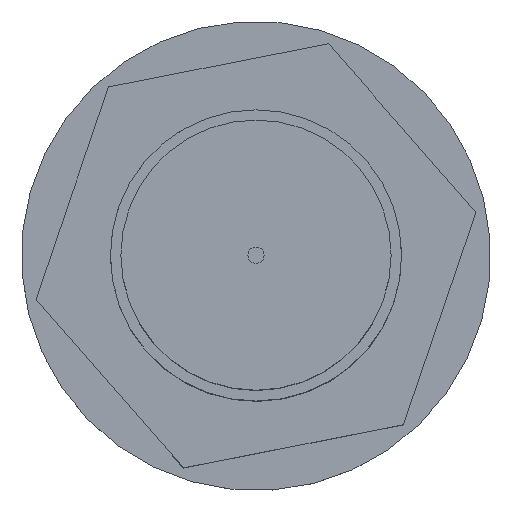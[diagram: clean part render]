
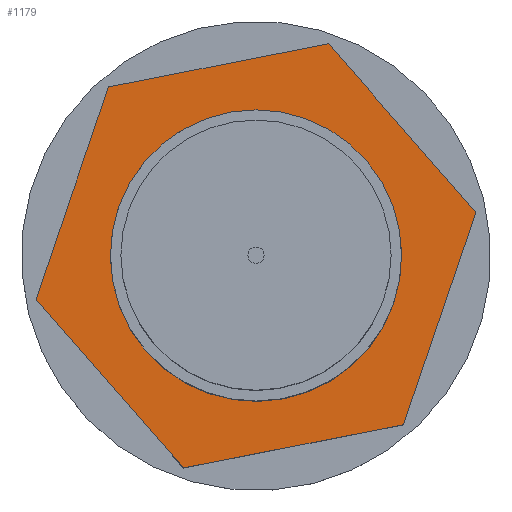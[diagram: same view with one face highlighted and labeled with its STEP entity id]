
A CAD part, top view. The second image highlights one B-rep face of the part: STEP entity #1179.
In plain terms, the highlighted planar face has unit normal (0, 0, 1) as drawn and (1, 0, 0) by its records, which use the part's own axes.
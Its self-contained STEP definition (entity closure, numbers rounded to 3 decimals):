
#40 = ORIENTED_EDGE ( 'NONE', *, *, #1164, .T. ) ;
#67 = CARTESIAN_POINT ( 'NONE',  ( 4., 0., 13.856 ) ) ;
#85 = VERTEX_POINT ( 'NONE', #1415 ) ;
#143 = CARTESIAN_POINT ( 'NONE',  ( 4., 0., 9. ) ) ;
#177 = DIRECTION ( 'NONE',  ( 0., 0., -1. ) ) ;
#185 = EDGE_CURVE ( 'NONE', #522, #1761, #367, .T. ) ;
#201 = EDGE_CURVE ( 'NONE', #85, #1780, #1199, .T. ) ;
#230 = AXIS2_PLACEMENT_3D ( 'NONE', #537, #358, #177 ) ;
#237 = DIRECTION ( 'NONE',  ( 0., 0.866, -0.5 ) ) ;
#290 = EDGE_CURVE ( 'NONE', #588, #385, #1284, .T. ) ;
#340 = ORIENTED_EDGE ( 'NONE', *, *, #858, .T. ) ;
#358 = DIRECTION ( 'NONE',  ( 1., 0., 0. ) ) ;
#367 = CIRCLE ( 'NONE', #1001, 9. ) ;
#368 = CARTESIAN_POINT ( 'NONE',  ( 4., -12., -6.928 ) ) ;
#385 = VERTEX_POINT ( 'NONE', #1674 ) ;
#427 = CARTESIAN_POINT ( 'NONE',  ( 4., -12., -6.928 ) ) ;
#438 = VECTOR ( 'NONE', #935, 1000. ) ;
#454 = ORIENTED_EDGE ( 'NONE', *, *, #1323, .T. ) ;
#500 = VECTOR ( 'NONE', #699, 1000. ) ;
#503 = CARTESIAN_POINT ( 'NONE',  ( 4., 0., -13.856 ) ) ;
#522 = VERTEX_POINT ( 'NONE', #865 ) ;
#537 = CARTESIAN_POINT ( 'NONE',  ( 4., 0., 0. ) ) ;
#546 = ORIENTED_EDGE ( 'NONE', *, *, #185, .F. ) ;
#588 = VERTEX_POINT ( 'NONE', #67 ) ;
#589 = AXIS2_PLACEMENT_3D ( 'NONE', #1633, #1424, #1198 ) ;
#591 = FACE_BOUND ( 'NONE', #636, .T. ) ;
#599 = FACE_OUTER_BOUND ( 'NONE', #633, .T. ) ;
#605 = LINE ( 'NONE', #427, #1472 ) ;
#610 = VECTOR ( 'NONE', #687, 1000. ) ;
#633 = EDGE_LOOP ( 'NONE', ( #340, #1174, #887, #454, #971, #40 ) ) ;
#636 = EDGE_LOOP ( 'NONE', ( #986, #546 ) ) ;
#645 = VERTEX_POINT ( 'NONE', #503 ) ;
#687 = DIRECTION ( 'NONE',  ( 0., 0., -1. ) ) ;
#699 = DIRECTION ( 'NONE',  ( 0., -0.866, 0.5 ) ) ;
#858 = EDGE_CURVE ( 'NONE', #1292, #645, #605, .T. ) ;
#865 = CARTESIAN_POINT ( 'NONE',  ( 4., 0., -9. ) ) ;
#872 = CARTESIAN_POINT ( 'NONE',  ( 4., -12., 6.928 ) ) ;
#880 = CARTESIAN_POINT ( 'NONE',  ( 4., 12., 6.928 ) ) ;
#887 = ORIENTED_EDGE ( 'NONE', *, *, #201, .T. ) ;
#935 = DIRECTION ( 'NONE',  ( 0., 0.866, 0.5 ) ) ;
#971 = ORIENTED_EDGE ( 'NONE', *, *, #290, .T. ) ;
#986 = ORIENTED_EDGE ( 'NONE', *, *, #1741, .F. ) ;
#1001 = AXIS2_PLACEMENT_3D ( 'NONE', #1184, #1191, #1194 ) ;
#1002 = CARTESIAN_POINT ( 'NONE',  ( 4., 12., 6.928 ) ) ;
#1047 = LINE ( 'NONE', #880, #500 ) ;
#1101 = VECTOR ( 'NONE', #1324, 1000. ) ;
#1103 = CARTESIAN_POINT ( 'NONE',  ( 4., 0., -13.856 ) ) ;
#1164 = EDGE_CURVE ( 'NONE', #385, #1292, #1257, .T. ) ;
#1174 = ORIENTED_EDGE ( 'NONE', *, *, #1423, .T. ) ;
#1179 = ADVANCED_FACE ( 'NONE', ( #599, #591 ), #1810, .T. ) ;
#1184 = CARTESIAN_POINT ( 'NONE',  ( 4., 0., 0. ) ) ;
#1191 = DIRECTION ( 'NONE',  ( 1., 0., 0. ) ) ;
#1194 = DIRECTION ( 'NONE',  ( 0., 0., -1. ) ) ;
#1198 = DIRECTION ( 'NONE',  ( 0., 0., -1. ) ) ;
#1199 = LINE ( 'NONE', #1213, #1269 ) ;
#1213 = CARTESIAN_POINT ( 'NONE',  ( 4., 12., -6.928 ) ) ;
#1216 = DIRECTION ( 'NONE',  ( 0., 0., 1. ) ) ;
#1257 = LINE ( 'NONE', #872, #610 ) ;
#1269 = VECTOR ( 'NONE', #1216, 1000. ) ;
#1284 = LINE ( 'NONE', #1322, #1101 ) ;
#1292 = VERTEX_POINT ( 'NONE', #368 ) ;
#1322 = CARTESIAN_POINT ( 'NONE',  ( 4., 0., 13.856 ) ) ;
#1323 = EDGE_CURVE ( 'NONE', #1780, #588, #1047, .T. ) ;
#1324 = DIRECTION ( 'NONE',  ( 0., -0.866, -0.5 ) ) ;
#1333 = LINE ( 'NONE', #1103, #438 ) ;
#1368 = CIRCLE ( 'NONE', #230, 9. ) ;
#1415 = CARTESIAN_POINT ( 'NONE',  ( 4., 12., -6.928 ) ) ;
#1423 = EDGE_CURVE ( 'NONE', #645, #85, #1333, .T. ) ;
#1424 = DIRECTION ( 'NONE',  ( 1., 0., 0. ) ) ;
#1472 = VECTOR ( 'NONE', #237, 1000. ) ;
#1633 = CARTESIAN_POINT ( 'NONE',  ( 4., 0., 0. ) ) ;
#1674 = CARTESIAN_POINT ( 'NONE',  ( 4., -12., 6.928 ) ) ;
#1741 = EDGE_CURVE ( 'NONE', #1761, #522, #1368, .T. ) ;
#1761 = VERTEX_POINT ( 'NONE', #143 ) ;
#1780 = VERTEX_POINT ( 'NONE', #1002 ) ;
#1810 = PLANE ( 'NONE',  #589 ) ;
